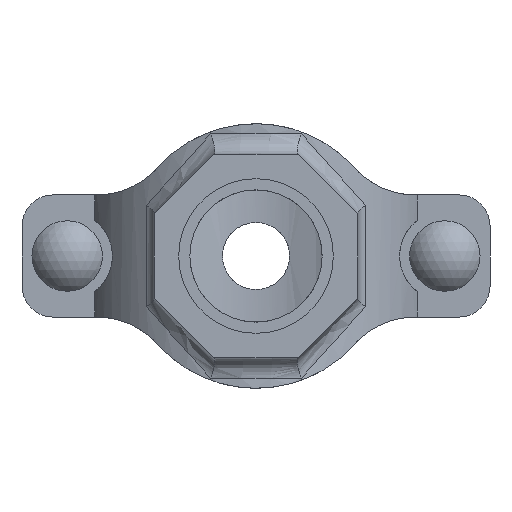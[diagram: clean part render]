
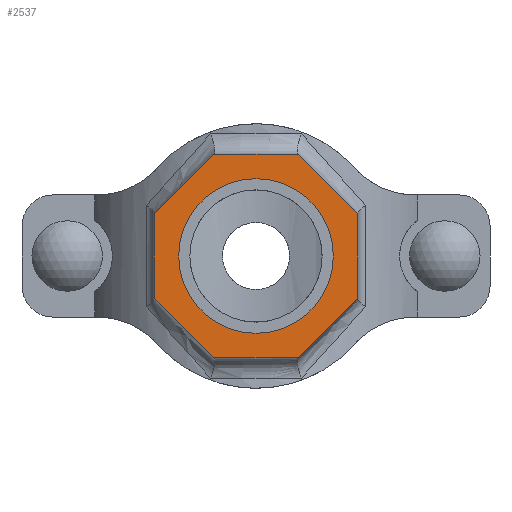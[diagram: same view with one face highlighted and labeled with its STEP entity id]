
A CAD part, front view. The second image highlights one B-rep face of the part: STEP entity #2537.
In plain terms, the highlighted planar face has unit normal (0, -1, 0) as drawn and (0, 1, 0) by its records, which use the part's own axes.
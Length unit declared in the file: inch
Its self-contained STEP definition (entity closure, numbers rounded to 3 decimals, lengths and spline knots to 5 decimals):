
#186=FACE_BOUND('',#457,.T.);
#305=FACE_OUTER_BOUND('',#456,.T.);
#456=EDGE_LOOP('',(#2128,#2129,#2130,#2131,#2132,#2133,#2134,#2135));
#457=EDGE_LOOP('',(#2136));
#594=LINE('',#4599,#780);
#597=LINE('',#4604,#783);
#599=LINE('',#4608,#785);
#601=LINE('',#4612,#787);
#637=LINE('',#5053,#823);
#639=LINE('',#5057,#825);
#641=LINE('',#5061,#827);
#643=LINE('',#5064,#829);
#780=VECTOR('',#3278,0.3937);
#783=VECTOR('',#3283,0.3937);
#785=VECTOR('',#3287,0.3937);
#787=VECTOR('',#3291,0.3937);
#823=VECTOR('',#3419,0.3937);
#825=VECTOR('',#3423,0.3937);
#827=VECTOR('',#3427,0.3937);
#829=VECTOR('',#3431,0.3937);
#919=CIRCLE('',#2802,0.95);
#1097=VERTEX_POINT('',#4596);
#1098=VERTEX_POINT('',#4598);
#1099=VERTEX_POINT('',#4602);
#1100=VERTEX_POINT('',#4606);
#1101=VERTEX_POINT('',#4610);
#1136=VERTEX_POINT('',#4890);
#1158=VERTEX_POINT('',#5052);
#1159=VERTEX_POINT('',#5056);
#1160=VERTEX_POINT('',#5060);
#1408=EDGE_CURVE('',#1098,#1097,#594,.T.);
#1411=EDGE_CURVE('',#1097,#1099,#597,.T.);
#1413=EDGE_CURVE('',#1099,#1100,#599,.T.);
#1415=EDGE_CURVE('',#1100,#1101,#601,.T.);
#1461=EDGE_CURVE('',#1136,#1136,#919,.T.);
#1491=EDGE_CURVE('',#1158,#1098,#637,.T.);
#1493=EDGE_CURVE('',#1159,#1158,#639,.T.);
#1495=EDGE_CURVE('',#1160,#1159,#641,.T.);
#1497=EDGE_CURVE('',#1101,#1160,#643,.T.);
#2128=ORIENTED_EDGE('',*,*,#1497,.T.);
#2129=ORIENTED_EDGE('',*,*,#1495,.T.);
#2130=ORIENTED_EDGE('',*,*,#1493,.T.);
#2131=ORIENTED_EDGE('',*,*,#1491,.T.);
#2132=ORIENTED_EDGE('',*,*,#1408,.T.);
#2133=ORIENTED_EDGE('',*,*,#1411,.T.);
#2134=ORIENTED_EDGE('',*,*,#1413,.T.);
#2135=ORIENTED_EDGE('',*,*,#1415,.T.);
#2136=ORIENTED_EDGE('',*,*,#1461,.T.);
#2278=PLANE('',#2823);
#2537=ADVANCED_FACE('',(#305,#186),#2278,.T.);
#2802=AXIS2_PLACEMENT_3D('',#4891,#3369,#3370);
#2823=AXIS2_PLACEMENT_3D('',#5065,#3432,#3433);
#3278=DIRECTION('',(0.,0.,1.));
#3283=DIRECTION('',(0.707,0.,0.707));
#3287=DIRECTION('',(1.,0.,0.));
#3291=DIRECTION('',(0.707,0.,-0.707));
#3369=DIRECTION('center_axis',(0.,-1.,0.));
#3370=DIRECTION('ref_axis',(-1.,0.,0.));
#3419=DIRECTION('',(-0.707,0.,0.707));
#3423=DIRECTION('',(-1.,0.,0.));
#3427=DIRECTION('',(-0.707,0.,-0.707));
#3431=DIRECTION('',(0.,0.,-1.));
#3432=DIRECTION('center_axis',(0.,1.,0.));
#3433=DIRECTION('ref_axis',(0.,0.,1.));
#4596=CARTESIAN_POINT('',(-1.25,3.5,0.51777));
#4598=CARTESIAN_POINT('',(-1.25,3.5,-0.51777));
#4599=CARTESIAN_POINT('',(-1.25,3.5,0.51777));
#4602=CARTESIAN_POINT('',(-0.51777,3.5,1.25));
#4604=CARTESIAN_POINT('',(-0.51777,3.5,1.25));
#4606=CARTESIAN_POINT('',(0.51777,3.5,1.25));
#4608=CARTESIAN_POINT('',(0.51777,3.5,1.25));
#4610=CARTESIAN_POINT('',(1.25,3.5,0.51777));
#4612=CARTESIAN_POINT('',(1.25,3.5,0.51777));
#4890=CARTESIAN_POINT('',(0.95,3.5,0.));
#4891=CARTESIAN_POINT('Origin',(0.,3.5,0.));
#5052=CARTESIAN_POINT('',(-0.51777,3.5,-1.25));
#5053=CARTESIAN_POINT('',(-1.25,3.5,-0.51777));
#5056=CARTESIAN_POINT('',(0.51777,3.5,-1.25));
#5057=CARTESIAN_POINT('',(-0.51777,3.5,-1.25));
#5060=CARTESIAN_POINT('',(1.25,3.5,-0.51777));
#5061=CARTESIAN_POINT('',(0.51777,3.5,-1.25));
#5064=CARTESIAN_POINT('',(1.25,3.5,-0.51777));
#5065=CARTESIAN_POINT('Origin',(0.,3.5,0.));
